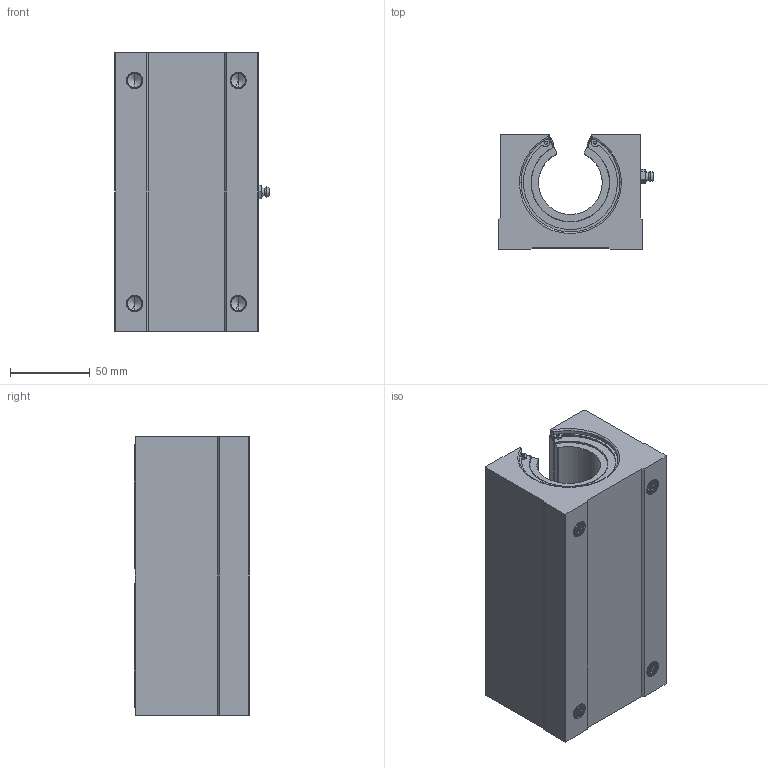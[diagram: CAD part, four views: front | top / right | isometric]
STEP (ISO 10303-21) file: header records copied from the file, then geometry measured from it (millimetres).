
FILE_DESCRIPTION (( 'STEP AP214' ), '1' );
FILE_NAME ('SBR40LUU.STEP', '2026-10-20T05:57:33', ( '' ), ( '' ), 'SwSTEP 2.0', 'SolidWorks 2022', '' );
FILE_SCHEMA (( 'AUTOMOTIVE_DESIGN' ));
Length unit declared in the file: millimetre
Products named in the file (9): SBR40LUU-02; SBR40LUU-04; SBR40LUU-05; SBR20LUU-07_1; SBR20LUU-04_5х4,5; SBR40LUU-01; SBR40LUU; SBR40LUU-03; SBR40LUU-06
Assembly tree (24 placements, depth 2):
  SBR40LUU
    SBR40LUU-01
    SBR40LUU-02  x2
    SBR40LUU-03  x2
    SBR40LUU-04  x4
    SBR40LUU-05  x2
    SBR40LUU-06  x4
    SBR20LUU-04_5х4,5
    SBR20LUU-07_1  x8
Bounding box: 97 x 72.5 x 175 mm (x, y, z)
Volume: 813986.8 mm3; surface area: 228057 mm2
Topology: 24 solids, 24 shells, 794 faces, 2044 edges, 1300 vertices
Faces by surface type: cylinder 397, plane 265, cone 102, bspline 24, torus 6
Entity records: 29284 total; most frequent: CARTESIAN_POINT 18774, ORIENTED_EDGE 2312, DIRECTION 1944, EDGE_CURVE 1156, VERTEX_POINT 748, AXIS2_PLACEMENT_3D 720, LINE 504, VECTOR 504
